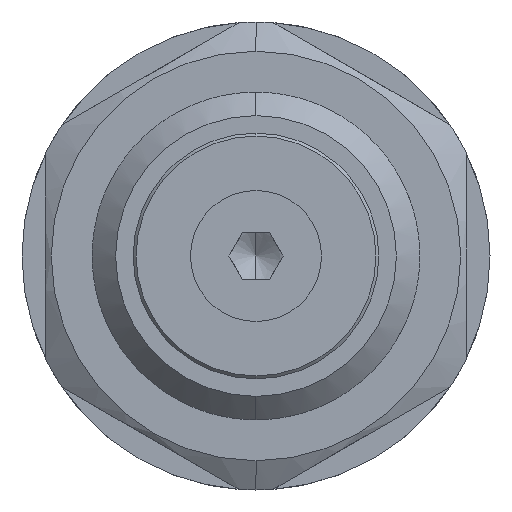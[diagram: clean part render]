
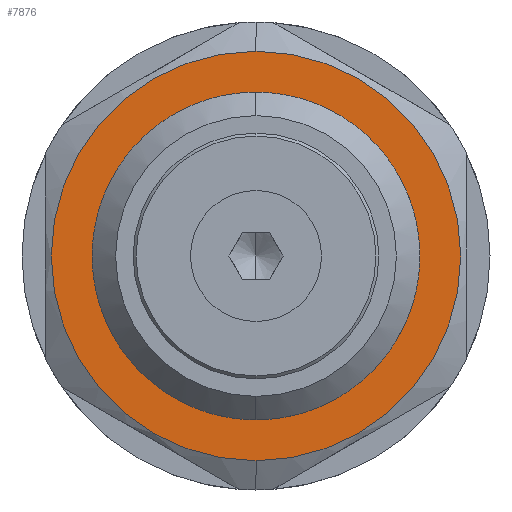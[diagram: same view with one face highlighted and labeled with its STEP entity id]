
A CAD part, left-side view. The second image highlights one B-rep face of the part: STEP entity #7876.
In plain terms, the highlighted planar face has unit normal (-1, 0, 0).
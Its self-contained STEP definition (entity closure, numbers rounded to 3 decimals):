
#3102 = VERTEX_POINT ( 'NONE', #5873 ) ;
#3244 = CARTESIAN_POINT ( 'NONE',  ( 0., 0., 0. ) ) ;
#3672 = VERTEX_POINT ( 'NONE', #14238 ) ;
#3795 = VERTEX_POINT ( 'NONE', #6292 ) ;
#5061 = DIRECTION ( 'NONE',  ( 0., 0., -1. ) ) ;
#5415 = AXIS2_PLACEMENT_3D ( 'NONE', #3244, #15677, #5061 ) ;
#5736 = DIRECTION ( 'NONE',  ( -1., 0., 0. ) ) ;
#5873 = CARTESIAN_POINT ( 'NONE',  ( 0., 0., -17.5 ) ) ;
#6042 = CIRCLE ( 'NONE', #19330, 17.5 ) ;
#6292 = CARTESIAN_POINT ( 'NONE',  ( 0., 0., 17.5 ) ) ;
#6406 = CARTESIAN_POINT ( 'NONE',  ( 0., 12.5, 0. ) ) ;
#7832 = AXIS2_PLACEMENT_3D ( 'NONE', #10445, #22795, #12226 ) ;
#7876 = ADVANCED_FACE ( 'NONE', ( #15834, #15272 ), #11858, .F. ) ;
#8156 = ORIENTED_EDGE ( 'NONE', *, *, #12029, .F. ) ;
#8378 = CARTESIAN_POINT ( 'NONE',  ( 0., 0., 0. ) ) ;
#9196 = CIRCLE ( 'NONE', #18248, 12.5 ) ;
#10143 = DIRECTION ( 'NONE',  ( 0., 0., -1. ) ) ;
#10445 = CARTESIAN_POINT ( 'NONE',  ( 0., 0., 0. ) ) ;
#10567 = CARTESIAN_POINT ( 'NONE',  ( 0., 0., 0. ) ) ;
#11047 = AXIS2_PLACEMENT_3D ( 'NONE', #8378, #20705, #10143 ) ;
#11858 = PLANE ( 'NONE',  #11047 ) ;
#12029 = EDGE_CURVE ( 'NONE', #18676, #3672, #9196, .T. ) ;
#12226 = DIRECTION ( 'NONE',  ( 0., -1., 0. ) ) ;
#12342 = DIRECTION ( 'NONE',  ( 0., 0., -1. ) ) ;
#12359 = EDGE_CURVE ( 'NONE', #3102, #3795, #6042, .T. ) ;
#13587 = EDGE_CURVE ( 'NONE', #3795, #3102, #16145, .T. ) ;
#13614 = EDGE_CURVE ( 'NONE', #3672, #18676, #20285, .T. ) ;
#14214 = ORIENTED_EDGE ( 'NONE', *, *, #13587, .F. ) ;
#14238 = CARTESIAN_POINT ( 'NONE',  ( 0., -12.5, 0. ) ) ;
#15272 = FACE_BOUND ( 'NONE', #15586, .T. ) ;
#15586 = EDGE_LOOP ( 'NONE', ( #17463, #8156 ) ) ;
#15677 = DIRECTION ( 'NONE',  ( 1., 0., 0. ) ) ;
#15834 = FACE_OUTER_BOUND ( 'NONE', #19178, .T. ) ;
#16145 = CIRCLE ( 'NONE', #5415, 17.5 ) ;
#16346 = CARTESIAN_POINT ( 'NONE',  ( 0., 0., 0. ) ) ;
#17463 = ORIENTED_EDGE ( 'NONE', *, *, #13614, .F. ) ;
#17798 = ORIENTED_EDGE ( 'NONE', *, *, #12359, .F. ) ;
#18106 = DIRECTION ( 'NONE',  ( 0., -1., 0. ) ) ;
#18248 = AXIS2_PLACEMENT_3D ( 'NONE', #16346, #5736, #18106 ) ;
#18676 = VERTEX_POINT ( 'NONE', #6406 ) ;
#19178 = EDGE_LOOP ( 'NONE', ( #17798, #14214 ) ) ;
#19330 = AXIS2_PLACEMENT_3D ( 'NONE', #10567, #22932, #12342 ) ;
#20285 = CIRCLE ( 'NONE', #7832, 12.5 ) ;
#20705 = DIRECTION ( 'NONE',  ( 1., 0., 0. ) ) ;
#22795 = DIRECTION ( 'NONE',  ( -1., 0., 0. ) ) ;
#22932 = DIRECTION ( 'NONE',  ( 1., 0., 0. ) ) ;
